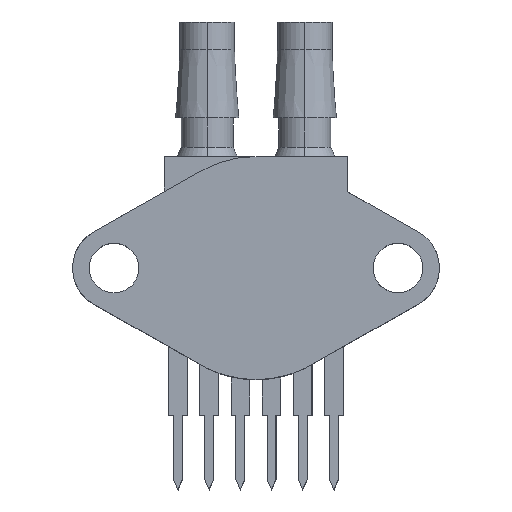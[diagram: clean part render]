
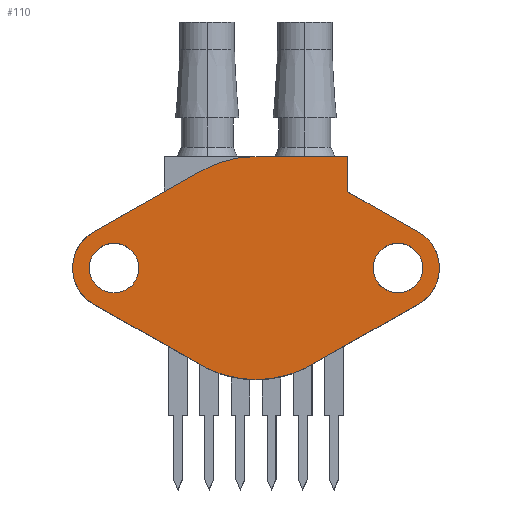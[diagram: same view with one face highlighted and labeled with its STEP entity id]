
A CAD part, top view. The second image highlights one B-rep face of the part: STEP entity #110.
In plain terms, the highlighted planar face has unit normal (0, 0, 1).
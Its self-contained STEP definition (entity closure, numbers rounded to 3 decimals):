
#29 = EDGE_CURVE ( 'NONE', #1665, #1660, #2033, .T. ) ;
#37 = EDGE_CURVE ( 'NONE', #1659, #1665, #8816, .T. ) ;
#39 = EDGE_CURVE ( 'NONE', #1509, #1659, #2058, .T. ) ;
#45 = EDGE_CURVE ( 'NONE', #1657, #1510, #8739, .T. ) ;
#47 = EDGE_CURVE ( 'NONE', #1666, #1657, #2083, .T. ) ;
#49 = EDGE_CURVE ( 'NONE', #1656, #1666, #2087, .T. ) ;
#58 = EDGE_CURVE ( 'NONE', #1664, #1656, #2118, .T. ) ;
#61 = EDGE_CURVE ( 'NONE', #1654, #1664, #8759, .T. ) ;
#63 = EDGE_CURVE ( 'NONE', #1655, #1654, #2135, .T. ) ;
#70 = EDGE_CURVE ( 'NONE', #1660, #1655, #8727, .T. ) ;
#74 = EDGE_CURVE ( 'NONE', #1533, #1560, #8778, .T. ) ;
#75 = EDGE_CURVE ( 'NONE', #1505, #1506, #8725, .T. ) ;
#110 = ADVANCED_FACE ( 'NONE', ( #2314, #2316, #2318 ), #2319, .F. ) ;
#1005 = EDGE_CURVE ( 'NONE', #1506, #1505, #6229, .T. ) ;
#1009 = EDGE_CURVE ( 'NONE', #1510, #1509, #6230, .T. ) ;
#1048 = EDGE_CURVE ( 'NONE', #1560, #1533, #6287, .T. ) ;
#1136 = ORIENTED_EDGE ( 'NONE', *, *, #74, .F. ) ;
#1137 = ORIENTED_EDGE ( 'NONE', *, *, #1048, .F. ) ;
#1138 = ORIENTED_EDGE ( 'NONE', *, *, #75, .F. ) ;
#1139 = ORIENTED_EDGE ( 'NONE', *, *, #1005, .F. ) ;
#1140 = ORIENTED_EDGE ( 'NONE', *, *, #61, .F. ) ;
#1141 = ORIENTED_EDGE ( 'NONE', *, *, #63, .F. ) ;
#1142 = ORIENTED_EDGE ( 'NONE', *, *, #70, .F. ) ;
#1143 = ORIENTED_EDGE ( 'NONE', *, *, #29, .F. ) ;
#1144 = ORIENTED_EDGE ( 'NONE', *, *, #37, .F. ) ;
#1145 = ORIENTED_EDGE ( 'NONE', *, *, #39, .F. ) ;
#1146 = ORIENTED_EDGE ( 'NONE', *, *, #1009, .F. ) ;
#1147 = ORIENTED_EDGE ( 'NONE', *, *, #45, .F. ) ;
#1148 = ORIENTED_EDGE ( 'NONE', *, *, #47, .F. ) ;
#1149 = ORIENTED_EDGE ( 'NONE', *, *, #49, .F. ) ;
#1150 = ORIENTED_EDGE ( 'NONE', *, *, #58, .F. ) ;
#1505 = VERTEX_POINT ( 'NONE', #7235 ) ;
#1506 = VERTEX_POINT ( 'NONE', #7236 ) ;
#1509 = VERTEX_POINT ( 'NONE', #7239 ) ;
#1510 = VERTEX_POINT ( 'NONE', #7240 ) ;
#1533 = VERTEX_POINT ( 'NONE', #7263 ) ;
#1560 = VERTEX_POINT ( 'NONE', #7290 ) ;
#1654 = VERTEX_POINT ( 'NONE', #7384 ) ;
#1655 = VERTEX_POINT ( 'NONE', #7385 ) ;
#1656 = VERTEX_POINT ( 'NONE', #7386 ) ;
#1657 = VERTEX_POINT ( 'NONE', #7387 ) ;
#1659 = VERTEX_POINT ( 'NONE', #7389 ) ;
#1660 = VERTEX_POINT ( 'NONE', #7390 ) ;
#1664 = VERTEX_POINT ( 'NONE', #7394 ) ;
#1665 = VERTEX_POINT ( 'NONE', #7395 ) ;
#1666 = VERTEX_POINT ( 'NONE', #7396 ) ;
#1949 = EDGE_LOOP ( 'NONE', ( #1138, #1139 ) ) ;
#1950 = EDGE_LOOP ( 'NONE', ( #1140, #1141, #1142, #1143, #1144, #1145, #1146, #1147, #1148, #1149, #1150 ) ) ;
#1951 = EDGE_LOOP ( 'NONE', ( #1136, #1137 ) ) ;
#2033 = LINE ( 'NONE', #2034, #8792 ) ;
#2034 = CARTESIAN_POINT ( 'NONE',  ( -60.863, 4.579, 6.13 ) ) ;
#2035 = DIRECTION ( 'NONE',  ( -0.87, 0.492, 0. ) ) ;
#2058 = LINE ( 'NONE', #2063, #8796 ) ;
#2059 = CARTESIAN_POINT ( 'NONE',  ( -56.924, 12.76, 6.13 ) ) ;
#2060 = DIRECTION ( 'NONE',  ( 1., 0., 0. ) ) ;
#2063 = CARTESIAN_POINT ( 'NONE',  ( -43.709, 9.827, 6.13 ) ) ;
#2065 = DIRECTION ( 'NONE',  ( -0.87, -0.492, 0. ) ) ;
#2083 = LINE ( 'NONE', #2089, #8741 ) ;
#2084 = CARTESIAN_POINT ( 'NONE',  ( -45.369, 12.76, 6.13 ) ) ;
#2085 = DIRECTION ( 'NONE',  ( 0., 0., -1. ) ) ;
#2086 = DIRECTION ( 'NONE',  ( 1., 0., 0. ) ) ;
#2087 = LINE ( 'NONE', #2093, #8751 ) ;
#2089 = CARTESIAN_POINT ( 'NONE',  ( -49.449, 18.956, 6.13 ) ) ;
#2090 = DIRECTION ( 'NONE',  ( 0.869, -0.494, 0. ) ) ;
#2093 = CARTESIAN_POINT ( 'NONE',  ( -49.449, 12.76, 6.13 ) ) ;
#2094 = DIRECTION ( 'NONE',  ( 0., -1., 0. ) ) ;
#2108 = CARTESIAN_POINT ( 'NONE',  ( -56.924, 21.84, 6.13 ) ) ;
#2118 = LINE ( 'NONE', #2108, #8767 ) ;
#2122 = DIRECTION ( 'NONE',  ( 1., 0., 0. ) ) ;
#2131 = CARTESIAN_POINT ( 'NONE',  ( -56.924, 12.76, 6.13 ) ) ;
#2132 = DIRECTION ( 'NONE',  ( 0., 0., -1. ) ) ;
#2133 = DIRECTION ( 'NONE',  ( 1., 0., 0. ) ) ;
#2135 = LINE ( 'NONE', #2137, #8748 ) ;
#2137 = CARTESIAN_POINT ( 'NONE',  ( -70.144, 15.69, 6.13 ) ) ;
#2138 = DIRECTION ( 'NONE',  ( 0.869, 0.494, 0. ) ) ;
#2159 = CARTESIAN_POINT ( 'NONE',  ( -68.479, 12.76, 6.13 ) ) ;
#2160 = DIRECTION ( 'NONE',  ( 0., 0., -1. ) ) ;
#2161 = DIRECTION ( 'NONE',  ( 1., 0., 0. ) ) ;
#2171 = CARTESIAN_POINT ( 'NONE',  ( -68.479, 12.76, 6.13 ) ) ;
#2172 = DIRECTION ( 'NONE',  ( 0., 0., 1. ) ) ;
#2173 = DIRECTION ( 'NONE',  ( 1., 0., 0. ) ) ;
#2176 = CARTESIAN_POINT ( 'NONE',  ( -45.369, 12.76, 6.13 ) ) ;
#2177 = DIRECTION ( 'NONE',  ( 0., 0., 1. ) ) ;
#2178 = DIRECTION ( 'NONE',  ( 1., 0., 0. ) ) ;
#2314 = FACE_BOUND ( 'NONE', #1951, .T. ) ;
#2316 = FACE_BOUND ( 'NONE', #1949, .T. ) ;
#2318 = FACE_OUTER_BOUND ( 'NONE', #1950, .T. ) ;
#2319 = PLANE ( 'NONE',  #8450 ) ;
#2327 = CARTESIAN_POINT ( 'NONE',  ( -56.924, 12.76, 6.13 ) ) ;
#2328 = DIRECTION ( 'NONE',  ( 0., 0., -1. ) ) ;
#2329 = DIRECTION ( 'NONE',  ( -1., 0., 0. ) ) ;
#6229 = CIRCLE ( 'NONE', #6231, 2.02 ) ;
#6230 = CIRCLE ( 'NONE', #6237, 3.37 ) ;
#6231 = AXIS2_PLACEMENT_3D ( 'NONE', #6893, #6894, #6895 ) ;
#6237 = AXIS2_PLACEMENT_3D ( 'NONE', #6903, #6904, #6905 ) ;
#6287 = CIRCLE ( 'NONE', #6289, 2.02 ) ;
#6289 = AXIS2_PLACEMENT_3D ( 'NONE', #7020, #7021, #7022 ) ;
#6893 = CARTESIAN_POINT ( 'NONE',  ( -45.369, 12.76, 6.13 ) ) ;
#6894 = DIRECTION ( 'NONE',  ( 0., 0., 1. ) ) ;
#6895 = DIRECTION ( 'NONE',  ( 1., 0., 0. ) ) ;
#6903 = CARTESIAN_POINT ( 'NONE',  ( -45.369, 12.76, 6.13 ) ) ;
#6904 = DIRECTION ( 'NONE',  ( 0., 0., -1. ) ) ;
#6905 = DIRECTION ( 'NONE',  ( 1., 0., 0. ) ) ;
#7020 = CARTESIAN_POINT ( 'NONE',  ( -68.479, 12.76, 6.13 ) ) ;
#7021 = DIRECTION ( 'NONE',  ( 0., 0., 1. ) ) ;
#7022 = DIRECTION ( 'NONE',  ( 1., 0., 0. ) ) ;
#7235 = CARTESIAN_POINT ( 'NONE',  ( -43.349, 12.76, 6.13 ) ) ;
#7236 = CARTESIAN_POINT ( 'NONE',  ( -47.389, 12.76, 6.13 ) ) ;
#7239 = CARTESIAN_POINT ( 'NONE',  ( -43.709, 9.827, 6.13 ) ) ;
#7240 = CARTESIAN_POINT ( 'NONE',  ( -41.999, 12.76, 6.13 ) ) ;
#7263 = CARTESIAN_POINT ( 'NONE',  ( -66.459, 12.76, 6.13 ) ) ;
#7290 = CARTESIAN_POINT ( 'NONE',  ( -70.499, 12.76, 6.13 ) ) ;
#7384 = CARTESIAN_POINT ( 'NONE',  ( -61.41, 20.654, 6.13 ) ) ;
#7385 = CARTESIAN_POINT ( 'NONE',  ( -70.144, 15.69, 6.13 ) ) ;
#7386 = CARTESIAN_POINT ( 'NONE',  ( -49.449, 21.84, 6.13 ) ) ;
#7387 = CARTESIAN_POINT ( 'NONE',  ( -43.703, 15.69, 6.13 ) ) ;
#7389 = CARTESIAN_POINT ( 'NONE',  ( -52.984, 4.579, 6.13 ) ) ;
#7390 = CARTESIAN_POINT ( 'NONE',  ( -70.138, 9.827, 6.13 ) ) ;
#7394 = CARTESIAN_POINT ( 'NONE',  ( -56.924, 21.84, 6.13 ) ) ;
#7395 = CARTESIAN_POINT ( 'NONE',  ( -60.863, 4.579, 6.13 ) ) ;
#7396 = CARTESIAN_POINT ( 'NONE',  ( -49.449, 18.956, 6.13 ) ) ;
#8450 = AXIS2_PLACEMENT_3D ( 'NONE', #2327, #2328, #2329 ) ;
#8724 = AXIS2_PLACEMENT_3D ( 'NONE', #2171, #2172, #2173 ) ;
#8725 = CIRCLE ( 'NONE', #8815, 2.02 ) ;
#8727 = CIRCLE ( 'NONE', #8729, 3.37 ) ;
#8729 = AXIS2_PLACEMENT_3D ( 'NONE', #2159, #2160, #2161 ) ;
#8732 = AXIS2_PLACEMENT_3D ( 'NONE', #2059, #8829, #2060 ) ;
#8739 = CIRCLE ( 'NONE', #8747, 3.37 ) ;
#8741 = VECTOR ( 'NONE', #2090, 1000. ) ;
#8746 = AXIS2_PLACEMENT_3D ( 'NONE', #2131, #2132, #2133 ) ;
#8747 = AXIS2_PLACEMENT_3D ( 'NONE', #2084, #2085, #2086 ) ;
#8748 = VECTOR ( 'NONE', #2138, 1000. ) ;
#8751 = VECTOR ( 'NONE', #2094, 1000. ) ;
#8759 = CIRCLE ( 'NONE', #8746, 9.08 ) ;
#8767 = VECTOR ( 'NONE', #2122, 1000. ) ;
#8778 = CIRCLE ( 'NONE', #8724, 2.02 ) ;
#8792 = VECTOR ( 'NONE', #2035, 1000. ) ;
#8796 = VECTOR ( 'NONE', #2065, 1000. ) ;
#8815 = AXIS2_PLACEMENT_3D ( 'NONE', #2176, #2177, #2178 ) ;
#8816 = CIRCLE ( 'NONE', #8732, 9.08 ) ;
#8829 = DIRECTION ( 'NONE',  ( 0., 0., -1. ) ) ;
